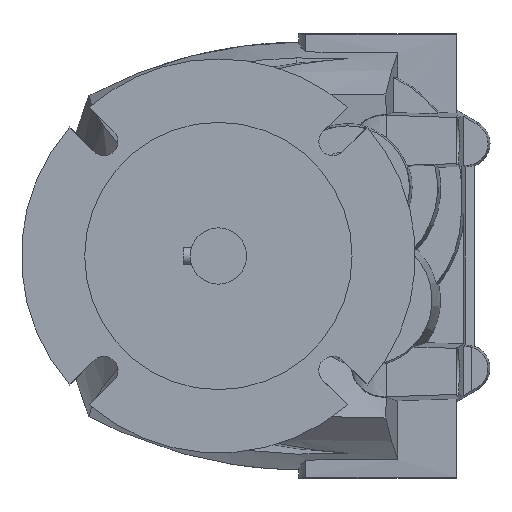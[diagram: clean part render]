
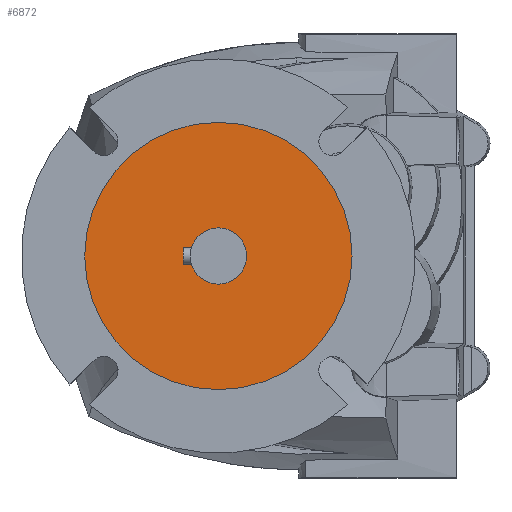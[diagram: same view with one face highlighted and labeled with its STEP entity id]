
A CAD part, left-side view. The second image highlights one B-rep face of the part: STEP entity #6872.
In plain terms, the highlighted planar face has unit normal (-1, 0, 0).
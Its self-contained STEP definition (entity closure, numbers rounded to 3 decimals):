
#504 = EDGE_LOOP ( 'NONE', ( #14430, #14431 ) ) ;
#512 = EDGE_LOOP ( 'NONE', ( #14428, #14429 ) ) ;
#548 = VERTEX_POINT ( 'NONE', #12476 ) ;
#575 = VERTEX_POINT ( 'NONE', #12501 ) ;
#631 = EDGE_CURVE ( 'NONE', #575, #548, #12864, .T. ) ;
#769 = EDGE_CURVE ( 'NONE', #6598, #6602, #1197, .T. ) ;
#781 = EDGE_CURVE ( 'NONE', #6602, #6598, #1216, .T. ) ;
#1197 = CIRCLE ( 'NONE', #17421, 10. ) ;
#1216 = CIRCLE ( 'NONE', #17425, 10. ) ;
#1881 = FACE_BOUND ( 'NONE', #504, .T. ) ;
#1884 = FACE_OUTER_BOUND ( 'NONE', #512, .T. ) ;
#3218 = CARTESIAN_POINT ( 'NONE',  ( -93., 0., 0. ) ) ;
#3219 = DIRECTION ( 'NONE',  ( -1., 0., 0. ) ) ;
#3220 = DIRECTION ( 'NONE',  ( 0., 0., 1. ) ) ;
#4595 = CARTESIAN_POINT ( 'NONE',  ( -93., 0., 10. ) ) ;
#4598 = CARTESIAN_POINT ( 'NONE',  ( -93., 0., -10. ) ) ;
#5256 = EDGE_CURVE ( 'NONE', #548, #575, #19820, .T. ) ;
#6598 = VERTEX_POINT ( 'NONE', #4595 ) ;
#6602 = VERTEX_POINT ( 'NONE', #4598 ) ;
#6872 = ADVANCED_FACE ( 'NONE', ( #1884, #1881 ), #8456, .F. ) ;
#8450 = CARTESIAN_POINT ( 'NONE',  ( -93., 43.5, 0. ) ) ;
#8456 = PLANE ( 'NONE',  #17689 ) ;
#8458 = DIRECTION ( 'NONE',  ( 1., 0., 0. ) ) ;
#8459 = DIRECTION ( 'NONE',  ( 0., 0., -1. ) ) ;
#9550 = CARTESIAN_POINT ( 'NONE',  ( -93., 0., 0. ) ) ;
#9551 = DIRECTION ( 'NONE',  ( -1., 0., 0. ) ) ;
#9552 = DIRECTION ( 'NONE',  ( 0., 0., -1. ) ) ;
#9577 = CARTESIAN_POINT ( 'NONE',  ( -93., 0., 0. ) ) ;
#9578 = DIRECTION ( 'NONE',  ( -1., 0., 0. ) ) ;
#9579 = DIRECTION ( 'NONE',  ( 0., 0., -1. ) ) ;
#12476 = CARTESIAN_POINT ( 'NONE',  ( -93., 0., -47.5 ) ) ;
#12501 = CARTESIAN_POINT ( 'NONE',  ( -93., 0., 47.5 ) ) ;
#12864 = CIRCLE ( 'NONE', #17371, 47.5 ) ;
#14428 = ORIENTED_EDGE ( 'NONE', *, *, #631, .T. ) ;
#14429 = ORIENTED_EDGE ( 'NONE', *, *, #5256, .T. ) ;
#14430 = ORIENTED_EDGE ( 'NONE', *, *, #769, .F. ) ;
#14431 = ORIENTED_EDGE ( 'NONE', *, *, #781, .F. ) ;
#17371 = AXIS2_PLACEMENT_3D ( 'NONE', #18136, #18137, #18138 ) ;
#17421 = AXIS2_PLACEMENT_3D ( 'NONE', #9550, #9551, #9552 ) ;
#17425 = AXIS2_PLACEMENT_3D ( 'NONE', #9577, #9578, #9579 ) ;
#17503 = AXIS2_PLACEMENT_3D ( 'NONE', #3218, #3219, #3220 ) ;
#17689 = AXIS2_PLACEMENT_3D ( 'NONE', #8450, #8458, #8459 ) ;
#18136 = CARTESIAN_POINT ( 'NONE',  ( -93., 0., 0. ) ) ;
#18137 = DIRECTION ( 'NONE',  ( -1., 0., 0. ) ) ;
#18138 = DIRECTION ( 'NONE',  ( 0., 0., 1. ) ) ;
#19820 = CIRCLE ( 'NONE', #17503, 47.5 ) ;
